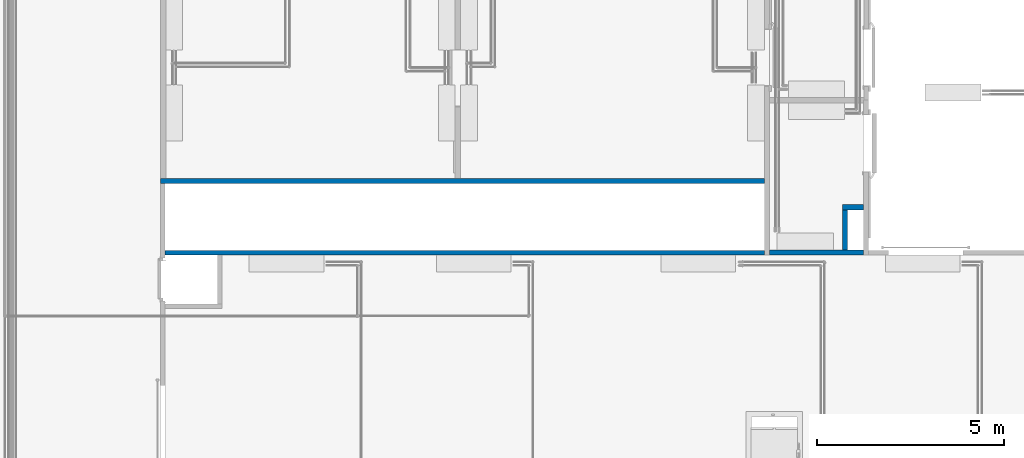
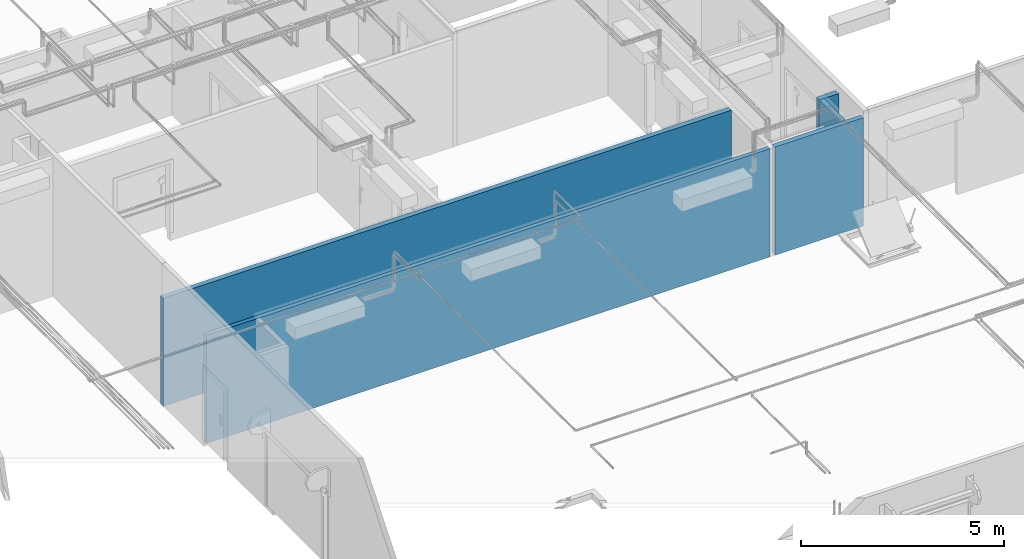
# One storey, part 10 of 652: 5 walls.
"""IFC2X3 building model written with IfcOpenShell, lengths in millimetres."""

import ifcopenshell
import ifcopenshell.guid

model = None  # the IFC model being written
_history = None  # IfcOwnerHistory: only IFC2X3 demands one
_inside = {}  # id of a spatial element -> (the spatial element, [elements in it])
_under = {}  # id of a project, library or spatial element -> (it, [spatial elements below it])
_declared = {}  # id of a project -> (the project, [libraries it declares])
_typed = {}  # id of a type object -> (the type object, [elements of that type])
_made_of = {}  # id of a material, layer set ... -> (it, [elements and type objects made of it])


def new_model(schema):
    """Start an empty IFC model of exactly this schema.

    Asked for "IFC4X3", IfcOpenShell would pick the latest addendum, in which some entities
    have other attributes; the version numbers below select the first issue.
    IFC2X3 requires an IfcOwnerHistory on every rooted entity: one is made here for all.
    """
    global model, _history
    if schema == "IFC4X3":
        model = ifcopenshell.file(schema_version=(4, 3, 0, 0))
    else:
        model = ifcopenshell.file(schema=schema)
    _inside.clear()
    _under.clear()
    _declared.clear()
    _typed.clear()
    _made_of.clear()
    _history = None
    if model.schema == "IFC2X3":
        org = make("IfcOrganization", Name="unknown")
        user = make(
            "IfcPersonAndOrganization",
            ThePerson=make("IfcPerson", FamilyName="unknown"),
            TheOrganization=org,
        )
        app = make(
            "IfcApplication",
            ApplicationDeveloper=org,
            Version="unknown",
            ApplicationFullName="unknown",
            ApplicationIdentifier="unknown",
        )
        _history = make(
            "IfcOwnerHistory",
            OwningUser=user,
            OwningApplication=app,
            ChangeAction="ADDED",
            CreationDate=0,
        )
    return model


def make(cls, **values):
    """One entity of the class cls with the attributes given. An attribute that is None is left unset."""
    return model.create_entity(
        cls, **{name: value for name, value in values.items() if value is not None}
    )


def entity(cls, *values):
    """Any entity or typed value of the class cls, its attributes in the order of the schema. None: left unset."""
    e = model.create_entity(cls)
    for i, value in enumerate(values):
        if value is not None:
            e[i] = value
    return e


def rooted(cls, **values):
    """An entity with a GlobalId (a new one), such as an element, a storey or a relation."""
    return make(cls, GlobalId=ifcopenshell.guid.new(), OwnerHistory=_history, **values)


def si_unit(unit_type, name, prefix=None):
    """IfcSIUnit, for example si_unit("LENGTHUNIT", "METRE", prefix="MILLI")."""
    return make("IfcSIUnit", UnitType=unit_type, Prefix=prefix, Name=name)


def converted_unit(unit_type, name, factor, base, dimensions=None, offset=None):
    """IfcConversionBasedUnit, such as the inch: factor (a typed value) times the base unit."""
    return make(
        "IfcConversionBasedUnit"
        if offset is None
        else "IfcConversionBasedUnitWithOffset",
        ConversionOffset=offset,
        Dimensions=None
        if dimensions is None
        else entity("IfcDimensionalExponents", *dimensions),
        UnitType=unit_type,
        Name=name,
        ConversionFactor=make(
            "IfcMeasureWithUnit", ValueComponent=factor, UnitComponent=base
        ),
    )


def assignment(units):
    """IfcUnitAssignment: the units of a project."""
    return None if units is None else make("IfcUnitAssignment", Units=units)


def point(xyz):
    """IfcCartesianPoint."""
    return None if xyz is None else make("IfcCartesianPoint", Coordinates=xyz)


def direction(xyz):
    """IfcDirection."""
    return None if xyz is None else make("IfcDirection", DirectionRatios=xyz)


def frame(location, z_axis=None, x_axis=None):
    """IfcAxis2Placement3D, a coordinate frame: its origin and axes. An axis left out is left unset."""
    return make(
        "IfcAxis2Placement3D",
        Location=point(location),
        Axis=direction(z_axis),
        RefDirection=direction(x_axis),
    )


def frame_2d(location, x_axis=None):
    """IfcAxis2Placement2D, a coordinate frame in the plane: its origin and x axis."""
    return make(
        "IfcAxis2Placement2D", Location=point(location), RefDirection=direction(x_axis)
    )


def origin():
    """The frame at (0, 0, 0) with its axes left unset."""
    return frame((0.0, 0.0, 0.0))


def place(relative_to, where):
    """IfcLocalPlacement: puts the frame where relative to a parent placement (None: the world)."""
    return make(
        "IfcLocalPlacement", PlacementRelTo=relative_to, RelativePlacement=where
    )


def context(
    kind, dimensions, precision=None, world=None, true_north=None, identifier=None
):
    """IfcGeometricRepresentationContext, for example the 3D "Model" context."""
    return make(
        "IfcGeometricRepresentationContext",
        ContextIdentifier=identifier,
        ContextType=kind,
        CoordinateSpaceDimension=dimensions,
        Precision=precision,
        WorldCoordinateSystem=world,
        TrueNorth=true_north,
    )


def subcontext(parent, identifier, kind, view, scale=None):
    """IfcGeometricRepresentationSubContext, for example "Body" below "Model"."""
    return make(
        "IfcGeometricRepresentationSubContext",
        ContextIdentifier=identifier,
        ContextType=kind,
        ParentContext=parent,
        TargetScale=scale,
        TargetView=view,
    )


def project(units=None, contexts=None):
    """IfcProject with its units and contexts."""
    return rooted(
        "IfcProject",
        Name="project",
        RepresentationContexts=contexts,
        UnitsInContext=assignment(units),
    )


def spatial(cls, under=None, at=None, **own):
    """A site, building, storey or space (cls), placed at a placement, below another one or the project."""
    s = rooted(cls, ObjectPlacement=at, **own)
    if under is not None:
        _under.setdefault(under.id(), (under, []))[1].append(s)
    return s


def profile(cls, at=None, kind="AREA", **sizes):
    """A parametric profile (cls). Its sizes go by their IFC names, for example OverallWidth=200.0."""
    return make(cls, ProfileType=kind, Position=at, **sizes)


def rectangle(**sizes):
    """IfcRectangleProfileDef."""
    return profile("IfcRectangleProfileDef", **sizes)


def extrude(swept, where, along, depth):
    """IfcExtrudedAreaSolid: the profile swept, set in the frame where, extruded along a direction by depth."""
    return make(
        "IfcExtrudedAreaSolid",
        SweptArea=swept,
        Position=where,
        ExtrudedDirection=direction(along),
        Depth=depth,
    )


def shape(context_of_items, identifier, shape_type, items):
    """IfcShapeRepresentation: the items that make up one representation, for example the "Body"."""
    return make(
        "IfcShapeRepresentation",
        ContextOfItems=context_of_items,
        RepresentationIdentifier=identifier,
        RepresentationType=shape_type,
        Items=items,
    )


def material(Name=None, Category=None):
    """IfcMaterial."""
    return make("IfcMaterial", Name=Name, Category=Category)


def layer(
    of_material, thickness, ventilated=None, Name=None, Category=None, Priority=None
):
    """IfcMaterialLayer: one layer of a wall or slab, of a material (None: an air gap)."""
    return make(
        "IfcMaterialLayer",
        Material=of_material,
        LayerThickness=thickness,
        IsVentilated=ventilated,
        Name=Name,
        Category=Category,
        Priority=Priority,
    )


def layer_set(layers, Name=None):
    """IfcMaterialLayerSet."""
    return make("IfcMaterialLayerSet", MaterialLayers=layers, LayerSetName=Name)


def layer_usage(for_layer_set, set_direction, sense, offset, extent=None):
    """IfcMaterialLayerSetUsage: how a layer set lies in its element."""
    return make(
        "IfcMaterialLayerSetUsage",
        ForLayerSet=for_layer_set,
        LayerSetDirection=set_direction,
        DirectionSense=sense,
        OffsetFromReferenceLine=offset,
        ReferenceExtent=extent,
    )


def made_of(thing, what):
    """Note that an element or type object is made of a material, layer set ...; save() writes the relation."""
    if what is not None:
        _made_of.setdefault(what.id(), (what, []))[1].append(thing)
    return thing


def type_object(cls, material=None, **own):
    """A type object (cls), such as IfcWallType, which elements share."""
    return made_of(rooted(cls, **own), material)


def element(
    cls,
    number,
    at=None,
    inside=None,
    cuts=None,
    type_object=None,
    material=None,
    context=None,
    identifier="Body",
    shape_type=None,
    held_by="IfcProductDefinitionShape",
    body=None,
    shapes=None,
    **own,
):
    """One element of the class cls, such as IfcWall. Its Tag is "e" and its number.

    at: its placement. inside: the storey or other place that contains it. cuts: it is an
    opening in that element (IfcRelVoidsElement). A single representation is given by context,
    identifier, shape_type and body (its items); several are given by shapes. held_by: the class
    of the entity that holds the representations. save() writes the other relations.
    """
    e = rooted(cls, Tag="e%d" % number, ObjectPlacement=at, **own)
    if body is not None:
        shapes = [shape(context, identifier, shape_type, body)]
    if shapes is not None:
        e.Representation = make(held_by, Representations=shapes)
    if inside is not None:
        _inside.setdefault(inside.id(), (inside, []))[1].append(e)
    if cuts is not None:
        rooted(
            "IfcRelVoidsElement", RelatingBuildingElement=cuts, RelatedOpeningElement=e
        )
    if type_object is not None:
        _typed.setdefault(type_object.id(), (type_object, []))[1].append(e)
    return made_of(e, material)


def aggregate(whole, parts):
    """IfcRelAggregates: a whole, such as a stair, and the parts it consists of."""
    return rooted("IfcRelAggregates", RelatingObject=whole, RelatedObjects=parts)


def save(model, path):
    """Write the relations noted so far, then the file.

    IfcRelAggregates (storeys below a building ...), IfcRelContainedInSpatialStructure (elements
    in a storey), IfcRelDefinesByType, IfcRelAssociatesMaterial and IfcRelDeclares: one each for
    every whole, place, type object, material and project.
    """
    for whole, parts in _under.values():
        aggregate(whole, parts)
    for where, things in _inside.values():
        rooted(
            "IfcRelContainedInSpatialStructure",
            RelatedElements=things,
            RelatingStructure=where,
        )
    for kind, things in _typed.values():
        rooted("IfcRelDefinesByType", RelatedObjects=things, RelatingType=kind)
    for what, things in _made_of.values():
        rooted("IfcRelAssociatesMaterial", RelatedObjects=things, RelatingMaterial=what)
    for by, libraries in _declared.values():
        rooted("IfcRelDeclares", RelatingContext=by, RelatedDefinitions=libraries)
    model.write(path)


model = new_model("IFC2X3")

# Units and contexts
model_context = context("Model", 3, precision=0.01, world=frame((0.0, 0.0, 308426.39999999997)), true_north=direction((6.123233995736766e-17, 1.0)))
plan_context = context("Plan", 3, precision=0.01, world=frame((0.0, 0.0, 308426.39999999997)), true_north=direction((6.123233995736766e-17, 1.0)))
body_context = subcontext(model_context, "Body", "Model", "MODEL_VIEW")
ifc_project = project(units=[si_unit("LENGTHUNIT", "METRE", prefix="MILLI"), si_unit("AREAUNIT", "SQUARE_METRE"), si_unit("VOLUMEUNIT", "CUBIC_METRE"), converted_unit("PLANEANGLEUNIT", "DEGREE", entity("IfcPlaneAngleMeasure", 0.017453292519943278), si_unit("PLANEANGLEUNIT", "RADIAN"), dimensions=[0, 0, 0, 0, 0, 0, 0])], contexts=[model_context, plan_context])

# Site, building, storey
site_placement = place(None, origin())
site = spatial("IfcSite", under=ifc_project, at=site_placement, Name="Default", CompositionType="ELEMENT")
building_placement = place(site_placement, origin())
building = spatial("IfcBuilding", under=site, at=building_placement, CompositionType="ELEMENT")
storey_placement = place(building_placement, frame((0.0, 0.0, 1730.6999999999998)))
storey = spatial("IfcBuildingStorey", under=building, at=storey_placement, Name="EG_Produktion_FFB", CompositionType="ELEMENT", Elevation=1730.6999999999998)

# Walls
ifc_material = material(Name="GPG_Paneelwand")
ifc_layer_1 = layer(ifc_material, 120.0)
ifc_layer_set_1 = layer_set([ifc_layer_1], Name="Basiswand:Kühlzellen Paneelwand 120")
ifc_layer_usage_1 = layer_usage(ifc_layer_set_1, "AXIS2", "NEGATIVE", 60.0)
wall_type_1 = type_object("IfcWallType", Name="Basiswand:Kühlzellen Paneelwand 120", PredefinedType="STANDARD", material=ifc_layer_set_1)
wall_1_placement = place(storey_placement, frame((19270.0, 50660.0, -250.0)))
element("IfcWallStandardCase", 1, at=wall_1_placement, inside=storey, type_object=wall_type_1, material=ifc_layer_usage_1, Name="Basiswand:Kühlzellen Paneelwand 120", ObjectType="Basiswand:Kühlzellen Paneelwand 120", context=body_context, shape_type="SweptSolid", body=[
    extrude(rectangle(XDim=16015.00000000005, YDim=120.00000000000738, at=frame_2d((8007.500000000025, 0.0), x_axis=(-1.0, 0.0))), origin(), (0.0, 0.0, 1.0), 3249.9999999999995),
])
ifc_layer_2 = layer(ifc_material, 140.0)
ifc_layer_set_2 = layer_set([ifc_layer_2], Name="Basiswand:Kühlzellen Paneelwand 140")
ifc_layer_usage_2 = layer_usage(ifc_layer_set_2, "AXIS2", "NEGATIVE", 70.0)
wall_type_2 = type_object("IfcWallType", Name="Basiswand:Kühlzellen Paneelwand 140", PredefinedType="STANDARD", material=ifc_layer_set_2)
wall_2_placement = place(storey_placement, frame((35285.0, 52580.0, -250.0), z_axis=(0.0, 0.0, 1.0), x_axis=(-1.0, 0.0, 0.0)))
element("IfcWallStandardCase", 2, at=wall_2_placement, inside=storey, type_object=wall_type_2, material=ifc_layer_usage_2, Name="Basiswand:Kühlzellen Paneelwand 140", ObjectType="Basiswand:Kühlzellen Paneelwand 140", context=body_context, shape_type="SweptSolid", body=[
    extrude(rectangle(XDim=16135.00000000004, YDim=140.00000000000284, at=frame_2d((8067.50000000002, -2.842170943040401e-14), x_axis=(-1.0, 0.0))), origin(), (0.0, 0.0, 1.0), 3249.9999999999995),
])
ifc_layer_usage_3 = layer_usage(ifc_layer_set_2, "AXIS2", "NEGATIVE", 70.0)
wall_3_placement = place(storey_placement, frame((37935.0, 50670.0, -250.0), z_axis=(0.0, 0.0, 1.0), x_axis=(-1.0, 0.0, 0.0)))
element("IfcWallStandardCase", 3, at=wall_3_placement, inside=storey, type_object=wall_type_2, material=ifc_layer_usage_3, Name="Basiswand:Kühlzellen Paneelwand 140", ObjectType="Basiswand:Kühlzellen Paneelwand 140", context=body_context, shape_type="SweptSolid", body=[
    extrude(rectangle(XDim=2509.999999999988, YDim=140.0000000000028, at=frame_2d((1254.999999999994, 0.0), x_axis=(-1.0, 0.0))), origin(), (0.0, 0.0, 1.0), 3249.9999999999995),
])
ifc_layer_usage_4 = layer_usage(ifc_layer_set_2, "AXIS2", "NEGATIVE", 70.0)
wall_4_placement = place(storey_placement, frame((37375.0, 51880.103196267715, -250.0)))
element("IfcWallStandardCase", 4, at=wall_4_placement, inside=storey, type_object=wall_type_2, material=ifc_layer_usage_4, Name="Basiswand:Kühlzellen Paneelwand 140", ObjectType="Basiswand:Kühlzellen Paneelwand 140", context=body_context, shape_type="SweptSolid", body=[
    extrude(rectangle(XDim=560.0000000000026, YDim=140.0000000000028, at=frame_2d((280.0000000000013, 0.0), x_axis=(-1.0, 0.0))), origin(), (0.0, 0.0, 1.0), 3249.9999999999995),
])
ifc_layer_usage_5 = layer_usage(ifc_layer_set_2, "AXIS2", "NEGATIVE", 70.0)
wall_5_placement = place(storey_placement, frame((37445.0, 50740.0, -250.0), z_axis=(0.0, 0.0, 1.0), x_axis=(0.0, 1.0, 0.0)))
element("IfcWallStandardCase", 5, at=wall_5_placement, inside=storey, type_object=wall_type_2, material=ifc_layer_usage_5, Name="Basiswand:Kühlzellen Paneelwand 140", ObjectType="Basiswand:Kühlzellen Paneelwand 140", context=body_context, shape_type="SweptSolid", body=[
    extrude(rectangle(XDim=1070.1031962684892, YDim=140.0000000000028, at=frame_2d((535.0515981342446, 0.0), x_axis=(-1.0, 0.0))), origin(), (0.0, 0.0, 1.0), 3249.9999999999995),
])

save(model, "model.ifc")
